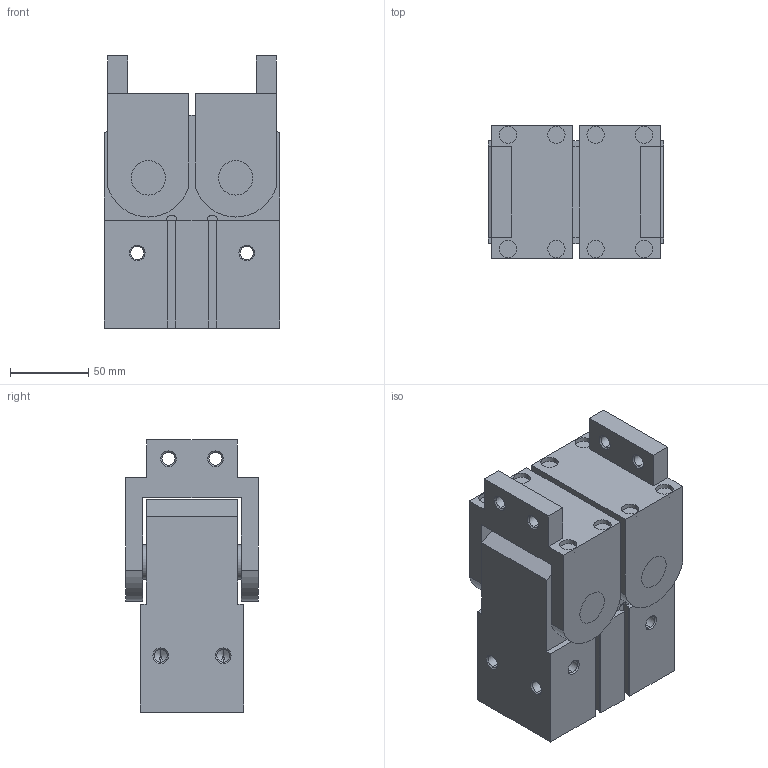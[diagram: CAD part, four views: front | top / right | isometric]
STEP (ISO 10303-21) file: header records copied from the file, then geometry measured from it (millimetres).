
FILE_DESCRIPTION (( 'STEP AP203' ), '1' );
FILE_NAME ('CHW2-50D1.STEP', '2020-04-02T13:35:36', ( '' ), ( '' ), 'SwSTEP 2.0', 'SolidWorks 2019', '' );
FILE_SCHEMA (( 'CONFIG_CONTROL_DESIGN' ));
Length unit declared in the file: millimetre
Products named in the file (1): CHW2-50D1
Bounding box: 112 x 85 x 174 mm (x, y, z)
Volume: 1188343.2 mm3; surface area: 138730.7 mm2
Topology: 3 solids, 3 shells, 225 faces, 542 edges, 334 vertices
Faces by surface type: plane 97, cylinder 80, cone 48
Entity records: 6549 total; most frequent: DIRECTION 1178, CARTESIAN_POINT 1090, ORIENTED_EDGE 1060, EDGE_CURVE 530, AXIS2_PLACEMENT_3D 422, LINE 334, VERTEX_POINT 334, VECTOR 334
